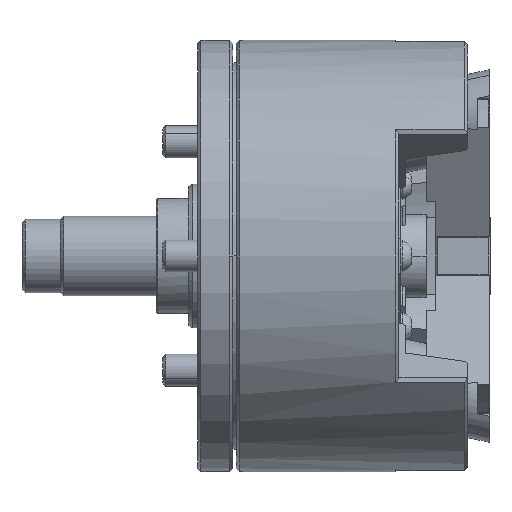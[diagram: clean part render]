
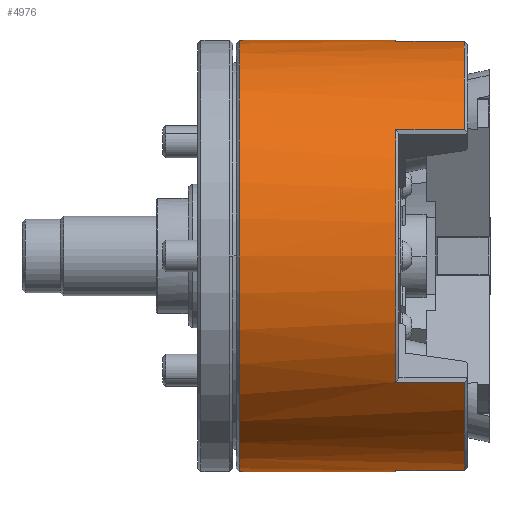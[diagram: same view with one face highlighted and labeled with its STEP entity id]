
A CAD part, front view. The second image highlights one B-rep face of the part: STEP entity #4976.
In plain terms, the highlighted cylindrical face has radius 67.5 mm (diameter 135 mm), a partial arc.
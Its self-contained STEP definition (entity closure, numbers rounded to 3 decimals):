
#132 = ORIENTED_EDGE ( 'NONE', *, *, #14738, .F. ) ;
#709 = CARTESIAN_POINT ( 'NONE',  ( -49.5, 0., 67.5 ) ) ;
#1123 = DIRECTION ( 'NONE',  ( -1., 0., 0. ) ) ;
#1227 = VERTEX_POINT ( 'NONE', #18482 ) ;
#1638 = AXIS2_PLACEMENT_3D ( 'NONE', #29534, #7407, #7468 ) ;
#1709 = EDGE_LOOP ( 'NONE', ( #132, #24042, #17079, #6767, #5173, #14157, #3624, #28879, #12468, #13727, #25884, #12449 ) ) ;
#2554 = CARTESIAN_POINT ( 'NONE',  ( -0.478, -54.717, 39.525 ) ) ;
#3340 = EDGE_CURVE ( 'NONE', #24510, #25429, #7455, .T. ) ;
#3474 = DIRECTION ( 'NONE',  ( -1., 0., 0. ) ) ;
#3624 = ORIENTED_EDGE ( 'NONE', *, *, #27822, .T. ) ;
#3704 = VERTEX_POINT ( 'NONE', #25545 ) ;
#4118 = VERTEX_POINT ( 'NONE', #14645 ) ;
#4518 = CARTESIAN_POINT ( 'NONE',  ( -0.478, 0., 0. ) ) ;
#4605 = VECTOR ( 'NONE', #1123, 1000. ) ;
#4976 = ADVANCED_FACE ( 'NONE', ( #16022 ), #14605, .T. ) ;
#5098 = CARTESIAN_POINT ( 'NONE',  ( 21., -6.871, 67.149 ) ) ;
#5117 = DIRECTION ( 'NONE',  ( 1., 0., 0. ) ) ;
#5129 = DIRECTION ( 'NONE',  ( 1., 0., 0. ) ) ;
#5173 = ORIENTED_EDGE ( 'NONE', *, *, #7821, .T. ) ;
#5223 = VECTOR ( 'NONE', #3474, 1000. ) ;
#5228 = CARTESIAN_POINT ( 'NONE',  ( 63.843, -6.871, -67.149 ) ) ;
#5537 = VERTEX_POINT ( 'NONE', #709 ) ;
#5817 = AXIS2_PLACEMENT_3D ( 'NONE', #21022, #21153, #21053 ) ;
#5998 = CARTESIAN_POINT ( 'NONE',  ( -0.478, -6.871, -67.149 ) ) ;
#6257 = DIRECTION ( 'NONE',  ( 0., 0., 1. ) ) ;
#6263 = DIRECTION ( 'NONE',  ( -1., 0., 0. ) ) ;
#6274 = VECTOR ( 'NONE', #16504, 1000. ) ;
#6299 = CARTESIAN_POINT ( 'NONE',  ( -0.478, 0., 0. ) ) ;
#6472 = VECTOR ( 'NONE', #5129, 1000. ) ;
#6609 = EDGE_CURVE ( 'NONE', #28037, #25431, #18754, .T. ) ;
#6767 = ORIENTED_EDGE ( 'NONE', *, *, #12652, .T. ) ;
#7407 = DIRECTION ( 'NONE',  ( -1., 0., 0. ) ) ;
#7455 = LINE ( 'NONE', #8987, #5223 ) ;
#7468 = DIRECTION ( 'NONE',  ( 0., 0., 1. ) ) ;
#7821 = EDGE_CURVE ( 'NONE', #25224, #17610, #13604, .T. ) ;
#8041 = CARTESIAN_POINT ( 'NONE',  ( 21., -6.871, -67.149 ) ) ;
#8897 = EDGE_CURVE ( 'NONE', #5537, #3704, #12550, .T. ) ;
#8987 = CARTESIAN_POINT ( 'NONE',  ( 63.843, -6.871, 67.149 ) ) ;
#10186 = VERTEX_POINT ( 'NONE', #17391 ) ;
#11189 = CARTESIAN_POINT ( 'NONE',  ( -0.478, -54.717, -39.525 ) ) ;
#11277 = EDGE_CURVE ( 'NONE', #17335, #28037, #20924, .T. ) ;
#11716 = AXIS2_PLACEMENT_3D ( 'NONE', #19837, #19804, #19779 ) ;
#12449 = ORIENTED_EDGE ( 'NONE', *, *, #23867, .T. ) ;
#12468 = ORIENTED_EDGE ( 'NONE', *, *, #6609, .T. ) ;
#12550 = CIRCLE ( 'NONE', #11716, 67.5 ) ;
#12652 = EDGE_CURVE ( 'NONE', #1227, #25224, #28406, .T. ) ;
#13598 = DIRECTION ( 'NONE',  ( 1., 0., 0. ) ) ;
#13604 = LINE ( 'NONE', #5228, #6472 ) ;
#13727 = ORIENTED_EDGE ( 'NONE', *, *, #29297, .F. ) ;
#14157 = ORIENTED_EDGE ( 'NONE', *, *, #29164, .F. ) ;
#14278 = CIRCLE ( 'NONE', #26162, 67.5 ) ;
#14348 = EDGE_CURVE ( 'NONE', #3704, #1227, #26851, .T. ) ;
#14513 = CARTESIAN_POINT ( 'NONE',  ( 63.843, 0., 67.5 ) ) ;
#14605 = CYLINDRICAL_SURFACE ( 'NONE', #5817, 67.5 ) ;
#14645 = CARTESIAN_POINT ( 'NONE',  ( -0.478, 0., 67.5 ) ) ;
#14738 = EDGE_CURVE ( 'NONE', #5537, #4118, #27197, .T. ) ;
#16022 = FACE_OUTER_BOUND ( 'NONE', #1709, .T. ) ;
#16504 = DIRECTION ( 'NONE',  ( 1., 0., 0. ) ) ;
#17079 = ORIENTED_EDGE ( 'NONE', *, *, #14348, .T. ) ;
#17335 = VERTEX_POINT ( 'NONE', #11189 ) ;
#17391 = CARTESIAN_POINT ( 'NONE',  ( 21., -54.717, -39.525 ) ) ;
#17610 = VERTEX_POINT ( 'NONE', #8041 ) ;
#18482 = CARTESIAN_POINT ( 'NONE',  ( -0.478, 0., -67.5 ) ) ;
#18754 = LINE ( 'NONE', #28422, #20124 ) ;
#18982 = CARTESIAN_POINT ( 'NONE',  ( 21., 0., 0. ) ) ;
#19459 = CIRCLE ( 'NONE', #24528, 67.5 ) ;
#19779 = DIRECTION ( 'NONE',  ( 0., 0., -1. ) ) ;
#19804 = DIRECTION ( 'NONE',  ( 1., 0., 0. ) ) ;
#19837 = CARTESIAN_POINT ( 'NONE',  ( -49.5, 0., 0. ) ) ;
#20105 = AXIS2_PLACEMENT_3D ( 'NONE', #4518, #27909, #25878 ) ;
#20124 = VECTOR ( 'NONE', #28131, 1000. ) ;
#20924 = CIRCLE ( 'NONE', #20105, 67.5 ) ;
#21022 = CARTESIAN_POINT ( 'NONE',  ( 63.843, 0., 0. ) ) ;
#21053 = DIRECTION ( 'NONE',  ( 0., 0., -1. ) ) ;
#21153 = DIRECTION ( 'NONE',  ( 1., 0., 0. ) ) ;
#21402 = DIRECTION ( 'NONE',  ( 0., 0., -1. ) ) ;
#22471 = CIRCLE ( 'NONE', #22846, 67.5 ) ;
#22846 = AXIS2_PLACEMENT_3D ( 'NONE', #18982, #5117, #21402 ) ;
#23867 = EDGE_CURVE ( 'NONE', #25429, #4118, #19459, .T. ) ;
#24042 = ORIENTED_EDGE ( 'NONE', *, *, #8897, .T. ) ;
#24510 = VERTEX_POINT ( 'NONE', #5098 ) ;
#24528 = AXIS2_PLACEMENT_3D ( 'NONE', #6299, #6263, #6257 ) ;
#25224 = VERTEX_POINT ( 'NONE', #5998 ) ;
#25429 = VERTEX_POINT ( 'NONE', #26726 ) ;
#25431 = VERTEX_POINT ( 'NONE', #26409 ) ;
#25545 = CARTESIAN_POINT ( 'NONE',  ( -49.5, 0., -67.5 ) ) ;
#25878 = DIRECTION ( 'NONE',  ( 0., 0., 1. ) ) ;
#25884 = ORIENTED_EDGE ( 'NONE', *, *, #3340, .T. ) ;
#25911 = VECTOR ( 'NONE', #29809, 1000. ) ;
#26162 = AXIS2_PLACEMENT_3D ( 'NONE', #27911, #13598, #30247 ) ;
#26409 = CARTESIAN_POINT ( 'NONE',  ( 21., -54.717, 39.525 ) ) ;
#26726 = CARTESIAN_POINT ( 'NONE',  ( -0.478, -6.871, 67.149 ) ) ;
#26851 = LINE ( 'NONE', #30488, #25911 ) ;
#27197 = LINE ( 'NONE', #14513, #6274 ) ;
#27822 = EDGE_CURVE ( 'NONE', #10186, #17335, #29397, .T. ) ;
#27909 = DIRECTION ( 'NONE',  ( -1., 0., 0. ) ) ;
#27911 = CARTESIAN_POINT ( 'NONE',  ( 21., 0., 0. ) ) ;
#28037 = VERTEX_POINT ( 'NONE', #2554 ) ;
#28131 = DIRECTION ( 'NONE',  ( 1., 0., 0. ) ) ;
#28406 = CIRCLE ( 'NONE', #1638, 67.5 ) ;
#28422 = CARTESIAN_POINT ( 'NONE',  ( 63.843, -54.717, 39.525 ) ) ;
#28879 = ORIENTED_EDGE ( 'NONE', *, *, #11277, .T. ) ;
#29164 = EDGE_CURVE ( 'NONE', #10186, #17610, #14278, .T. ) ;
#29297 = EDGE_CURVE ( 'NONE', #24510, #25431, #22471, .T. ) ;
#29376 = CARTESIAN_POINT ( 'NONE',  ( 63.843, -54.717, -39.525 ) ) ;
#29397 = LINE ( 'NONE', #29376, #4605 ) ;
#29534 = CARTESIAN_POINT ( 'NONE',  ( -0.478, 0., 0. ) ) ;
#29809 = DIRECTION ( 'NONE',  ( 1., 0., 0. ) ) ;
#30247 = DIRECTION ( 'NONE',  ( 0., 0., -1. ) ) ;
#30488 = CARTESIAN_POINT ( 'NONE',  ( 63.843, 0., -67.5 ) ) ;
